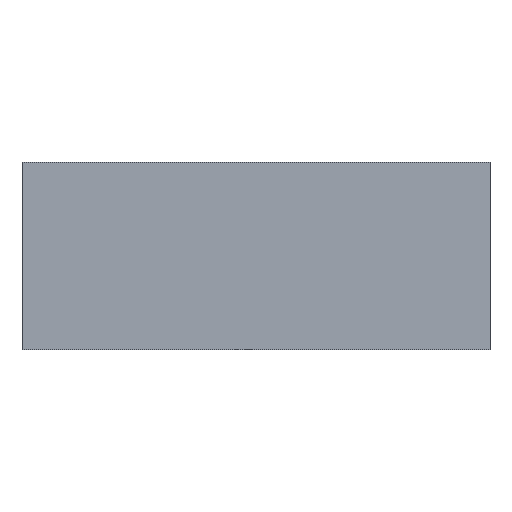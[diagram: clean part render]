
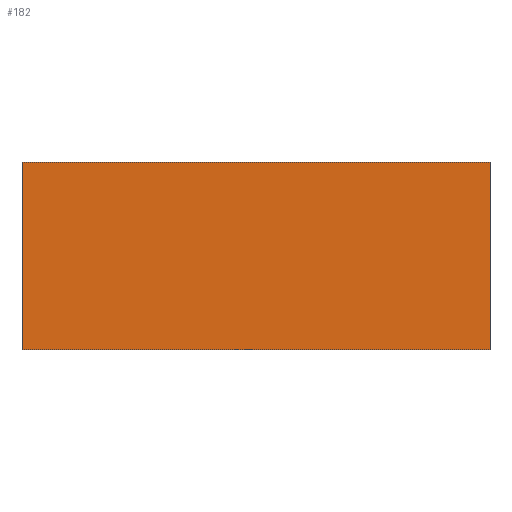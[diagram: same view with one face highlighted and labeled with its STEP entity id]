
A CAD part, front view. The second image highlights one B-rep face of the part: STEP entity #182.
In plain terms, the highlighted planar face has unit normal (0, -1, 0).
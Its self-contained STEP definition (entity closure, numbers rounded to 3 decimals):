
#9=DIRECTION('',(0.,0.,1.));
#10=VECTOR('',#9,0.5);
#11=CARTESIAN_POINT('',(-0.625,-1.,-0.24));
#12=LINE('',#11,#10);
#13=DIRECTION('',(1.,0.,0.));
#14=VECTOR('',#13,1.25);
#15=CARTESIAN_POINT('',(-0.625,-1.,0.26));
#16=LINE('',#15,#14);
#21=DIRECTION('',(0.,0.,1.));
#22=VECTOR('',#21,0.5);
#23=CARTESIAN_POINT('',(0.625,-1.,-0.24));
#24=LINE('',#23,#22);
#33=DIRECTION('',(1.,0.,0.));
#34=VECTOR('',#33,1.25);
#35=CARTESIAN_POINT('',(-0.625,-1.,-0.24));
#36=LINE('',#35,#34);
#117=CARTESIAN_POINT('',(0.625,-1.,0.26));
#118=VERTEX_POINT('',#117);
#119=CARTESIAN_POINT('',(-0.625,-1.,0.26));
#120=VERTEX_POINT('',#119);
#125=CARTESIAN_POINT('',(-0.625,-1.,-0.24));
#126=VERTEX_POINT('',#125);
#127=CARTESIAN_POINT('',(0.625,-1.,-0.24));
#128=VERTEX_POINT('',#127);
#168=CARTESIAN_POINT('',(0.,-1.,0.13));
#169=DIRECTION('',(0.,1.,0.));
#170=DIRECTION('',(1.,0.,0.));
#171=AXIS2_PLACEMENT_3D('',#168,#169,#170);
#172=PLANE('',#171);
#174=ORIENTED_EDGE('',*,*,#173,.F.);
#176=ORIENTED_EDGE('',*,*,#175,.F.);
#177=ORIENTED_EDGE('',*,*,#150,.T.);
#179=ORIENTED_EDGE('',*,*,#178,.T.);
#180=EDGE_LOOP('',(#174,#176,#177,#179));
#181=FACE_OUTER_BOUND('',#180,.F.);
#150=EDGE_CURVE('',#126,#120,#12,.T.);
#173=EDGE_CURVE('',#128,#118,#24,.T.);
#175=EDGE_CURVE('',#126,#128,#36,.T.);
#178=EDGE_CURVE('',#120,#118,#16,.T.);
#182=ADVANCED_FACE('',(#181),#172,.F.);
